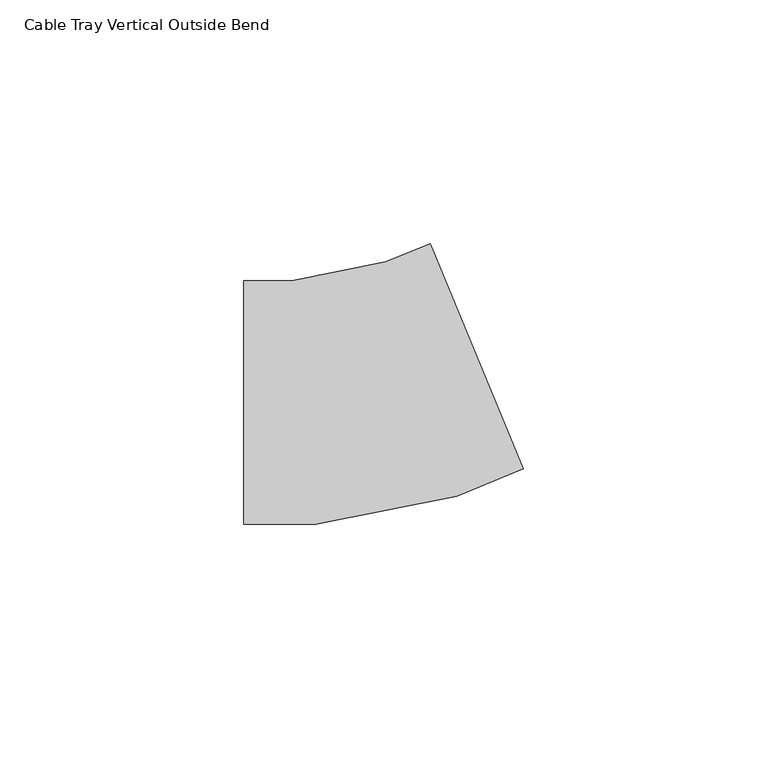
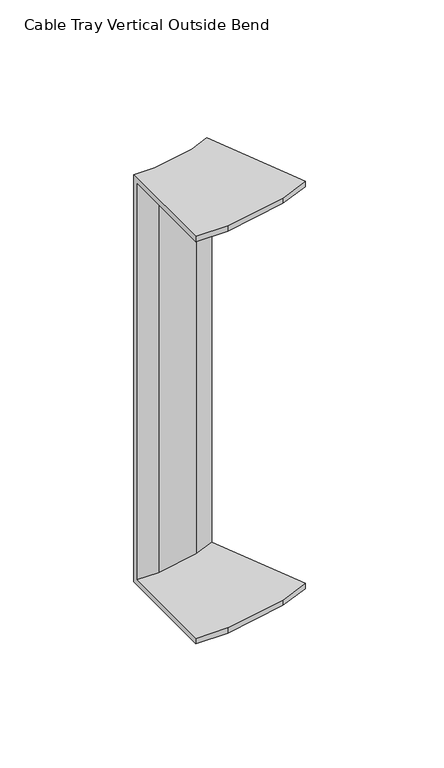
"""IFC4 building model written with IfcOpenShell, lengths in millimetres: cable carrier fitting geometry, Cable Tray Vertical Outside Bend : ELEC_SUB_CT_N2402."""

from ifc_helpers import new_model, si_unit, origin, place, context, project, spatial, faceted_brep, source, transform, mapped, element, save


def cable_tray_vertical_outside_bend_6efb6392(model_context):
    return source(origin(), model_context, "Body", "Brep", [
        faceted_brep([(-24.8640452, -25.0, 100.0), (-24.8640452, 25.0, 100.0), (-24.8640452, 25.0, -100.0), (-24.8640452, -25.0, -100.0), (-24.8640452, -25.0, -97.46), (-24.8640452, 22.46, -97.46), (-24.8640452, 22.46, 97.46), (-24.8640452, -25.0, 97.46), (32.5384681, -13.5819305, 100.0), (32.5384681, -13.5819305, 97.46), (14.3763129, 30.2653923, 97.46), (14.3763129, 30.2653923, -97.46), (32.5384681, -13.5819305, -97.46), (32.5384681, -13.5819305, -100.0), (13.404297, 32.6120463, -100.0), (13.404297, 32.6120463, 100.0), (-10.0903351, -25.0, 100.0), (18.8893397, -19.2355845, 100.0), (4.3048781, 28.8429437, 100.0), (-15.0149051, 25.0, 100.0), (-15.0149051, 25.0, -100.0), (4.3048781, 28.8429437, -100.0), (18.8893397, -19.2355845, -100.0), (-10.0903351, -25.0, -100.0), (-10.0903351, -25.0, -97.46), (18.8893397, -19.2355845, -97.46), (5.0457687, 26.4005545, -97.46), (-14.764737, 22.46, -97.46), (-14.764737, 22.46, 97.46), (5.0457687, 26.4005545, 97.46), (18.8893397, -19.2355845, 97.46), (-10.0903351, -25.0, 97.46)], [[[0, 1, 2, 3, 4, 5, 6, 7]], [[8, 9, 10, 11, 12, 13, 14, 15]], [[1, 0, 16, 17, 8, 15, 18, 19]], [[2, 1, 19, 20]], [[3, 2, 20, 21, 14, 13, 22, 23]], [[4, 3, 23, 24]], [[5, 4, 24, 25, 12, 11, 26, 27]], [[6, 5, 27, 28]], [[7, 6, 28, 29, 10, 9, 30, 31]], [[0, 7, 31, 16]], [[20, 19, 18, 21]], [[24, 23, 22, 25]], [[28, 27, 26, 29]], [[16, 31, 30, 17]], [[21, 18, 15, 14]], [[25, 22, 13, 12]], [[29, 26, 11, 10]], [[17, 30, 9, 8]]]),
    ])


if __name__ == "__main__":
    model = new_model("IFC4")
    model_context = context("Model", 3, world=origin())
    ifc_project = project(units=[si_unit("LENGTHUNIT", "METRE", prefix="MILLI")], contexts=[model_context])
    site = spatial("IfcSite", under=ifc_project)
    building = spatial("IfcBuilding", under=site)
    placement = place(None, origin())
    cable_tray_vertical_outside_bend_shape = cable_tray_vertical_outside_bend_6efb6392(model_context)
    element("IfcCableCarrierFitting", 1, ObjectType="Cable Tray Vertical Outside Bend : ELEC_SUB_CT_N2402", at=placement, inside=building, context=model_context, shape_type="MappedRepresentation", body=[
        mapped(cable_tray_vertical_outside_bend_shape, transform((0.0, 0.0, 0.0), x_axis=(1.0, 0.0, 0.0), y_axis=(0.0, 1.0, 0.0), z_axis=(0.0, 0.0, 1.0))),
    ])
    save(model, "model.ifc")
